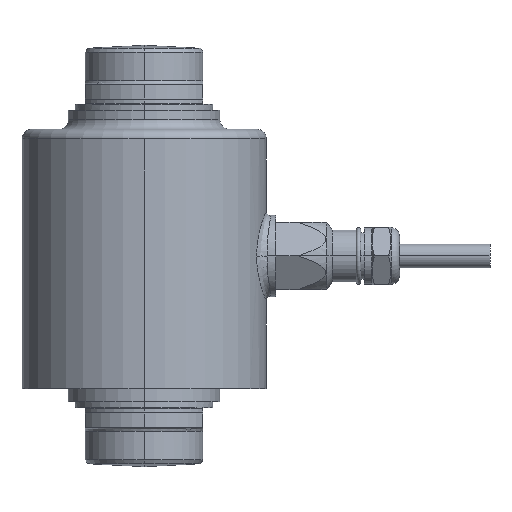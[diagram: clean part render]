
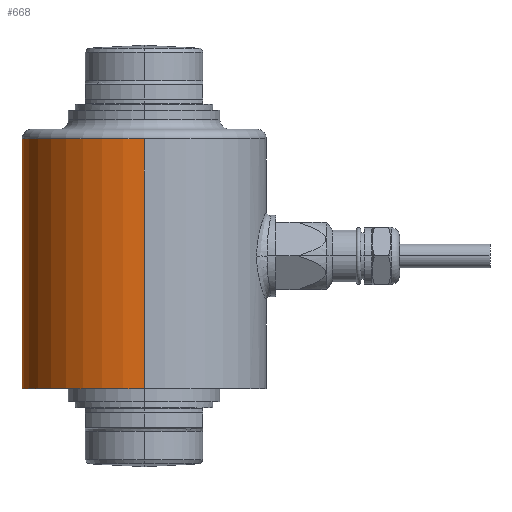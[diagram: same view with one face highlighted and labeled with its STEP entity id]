
A CAD part, left-side view. The second image highlights one B-rep face of the part: STEP entity #668.
In plain terms, the highlighted cylindrical face has radius 40.5 mm (diameter 81 mm), a partial arc.
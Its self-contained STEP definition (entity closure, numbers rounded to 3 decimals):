
#75 = ORIENTED_EDGE ( 'NONE', *, *, #884, .F. ) ;
#76 = ORIENTED_EDGE ( 'NONE', *, *, #6295, .T. ) ;
#77 = ORIENTED_EDGE ( 'NONE', *, *, #876, .T. ) ;
#78 = ORIENTED_EDGE ( 'NONE', *, *, #6303, .T. ) ;
#79 = ORIENTED_EDGE ( 'NONE', *, *, #967, .T. ) ;
#202 = EDGE_LOOP ( 'NONE', ( #75, #76, #77, #78, #79 ) ) ;
#668 = ADVANCED_FACE ( 'NONE', ( #6995 ), #6994, .T. ) ;
#876 = EDGE_CURVE ( 'NONE', #6705, #6540, #2926, .T. ) ;
#884 = EDGE_CURVE ( 'NONE', #6646, #6516, #2935, .T. ) ;
#967 = EDGE_CURVE ( 'NONE', #6640, #6516, #3487, .T. ) ;
#1789 = CARTESIAN_POINT ( 'NONE',  ( -30.217, 26.269, 88.65 ) ) ;
#1793 = DIRECTION ( 'NONE',  ( -1., 0., 0. ) ) ;
#1800 = DIRECTION ( 'NONE',  ( 0., 0., 1. ) ) ;
#2926 = LINE ( 'NONE', #3640, #2933 ) ;
#2933 = VECTOR ( 'NONE', #3641, 1000. ) ;
#2935 = LINE ( 'NONE', #3746, #2940 ) ;
#2940 = VECTOR ( 'NONE', #3747, 1000. ) ;
#3487 = CIRCLE ( 'NONE', #7217, 40.5 ) ;
#3534 = CIRCLE ( 'NONE', #7231, 40.5 ) ;
#3546 = CIRCLE ( 'NONE', #7242, 40.5 ) ;
#3640 = CARTESIAN_POINT ( 'NONE',  ( -70.717, 26.269, 88.65 ) ) ;
#3641 = DIRECTION ( 'NONE',  ( 0., 0., 1. ) ) ;
#3746 = CARTESIAN_POINT ( 'NONE',  ( 10.283, 26.269, 88.65 ) ) ;
#3747 = DIRECTION ( 'NONE',  ( 0., 0., 1. ) ) ;
#4061 = CARTESIAN_POINT ( 'NONE',  ( -30.217, 26.269, 130.063 ) ) ;
#4068 = DIRECTION ( 'NONE',  ( 0., 0., -1. ) ) ;
#4069 = DIRECTION ( 'NONE',  ( 0., -1., 0. ) ) ;
#4267 = CARTESIAN_POINT ( 'NONE',  ( -30.217, 26.269, 47.238 ) ) ;
#4268 = DIRECTION ( 'NONE',  ( 0., 0., 1. ) ) ;
#4269 = DIRECTION ( 'NONE',  ( -1., 0., 0. ) ) ;
#4301 = CARTESIAN_POINT ( 'NONE',  ( -30.217, 26.269, 130.063 ) ) ;
#4302 = DIRECTION ( 'NONE',  ( 0., 0., -1. ) ) ;
#4303 = DIRECTION ( 'NONE',  ( 0., -1., 0. ) ) ;
#4420 = CARTESIAN_POINT ( 'NONE',  ( 10.283, 26.269, 130.063 ) ) ;
#4437 = CARTESIAN_POINT ( 'NONE',  ( -70.717, 26.269, 130.063 ) ) ;
#4497 = CARTESIAN_POINT ( 'NONE',  ( -30.217, 66.769, 130.063 ) ) ;
#4500 = CARTESIAN_POINT ( 'NONE',  ( 10.283, 26.269, 47.238 ) ) ;
#4526 = CARTESIAN_POINT ( 'NONE',  ( -70.717, 26.269, 47.238 ) ) ;
#6248 = AXIS2_PLACEMENT_3D ( 'NONE', #1789, #1800, #1793 ) ;
#6295 = EDGE_CURVE ( 'NONE', #6646, #6705, #3534, .T. ) ;
#6303 = EDGE_CURVE ( 'NONE', #6540, #6640, #3546, .T. ) ;
#6516 = VERTEX_POINT ( 'NONE', #4420 ) ;
#6540 = VERTEX_POINT ( 'NONE', #4437 ) ;
#6640 = VERTEX_POINT ( 'NONE', #4497 ) ;
#6646 = VERTEX_POINT ( 'NONE', #4500 ) ;
#6705 = VERTEX_POINT ( 'NONE', #4526 ) ;
#6994 = CYLINDRICAL_SURFACE ( 'NONE', #6248, 40.5 ) ;
#6995 = FACE_OUTER_BOUND ( 'NONE', #202, .T. ) ;
#7217 = AXIS2_PLACEMENT_3D ( 'NONE', #4061, #4068, #4069 ) ;
#7231 = AXIS2_PLACEMENT_3D ( 'NONE', #4267, #4268, #4269 ) ;
#7242 = AXIS2_PLACEMENT_3D ( 'NONE', #4301, #4302, #4303 ) ;
